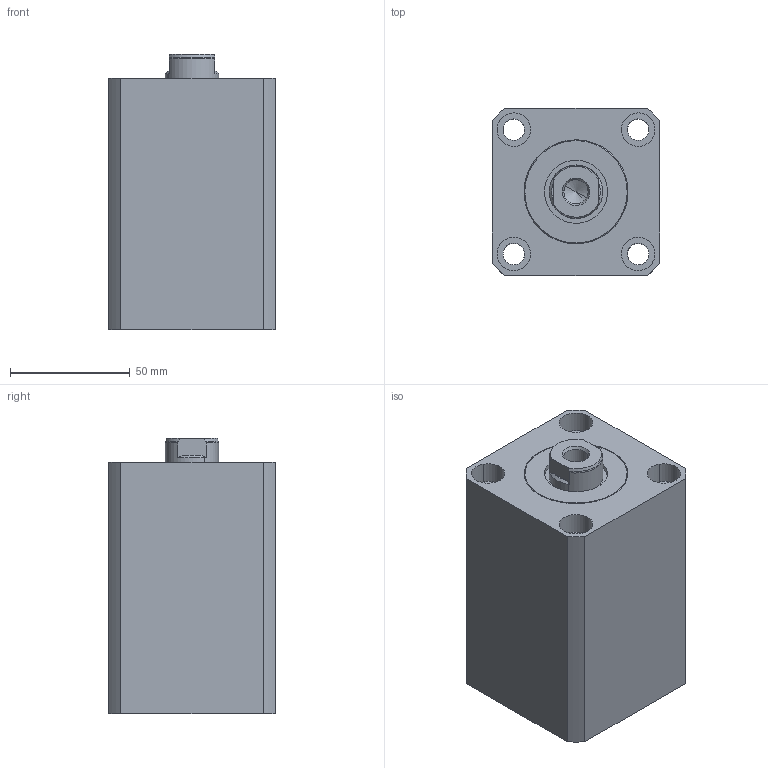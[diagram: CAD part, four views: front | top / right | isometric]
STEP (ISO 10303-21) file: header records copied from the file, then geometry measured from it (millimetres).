
FILE_DESCRIPTION(('CATIA V5 STEP'),'2;1');
FILE_NAME('\\Kjf-102\kjf_tc\Hydraulic_Clamp\Standard\BLOCK_CLAMP\BDx-40xx\G-TYPE\BDV-4050G_-.stp','2018-12-10T02:12:46+00:00',('none'),('none'),'CATIA Version 5 Release 19 SP 6 (IN-10)','CATIA V5 STEP AP214','none');
FILE_SCHEMA(('AUTOMOTIVE_DESIGN { 1 0 10303 214 1 1 1 1 }'));
Length unit declared in the file: millimetre
Products named in the file (3): BDV-4050G_-; BDV-4050G_-_HOUSING; BDx-4050_-_PISTON
Assembly tree (2 placements, depth 2):
  BDV-4050G_-
    BDV-4050G_-_HOUSING
    BDx-4050_-_PISTON
Bounding box: 70 x 70 x 115 mm (x, y, z)
Volume: 410324 mm3; surface area: 70251.6 mm2
Topology: 2 solids, 2 shells, 92 faces, 222 edges, 146 vertices
Faces by surface type: cylinder 48, plane 26, cone 16, torus 2
Entity records: 2554 total; most frequent: CARTESIAN_POINT 501, ORIENTED_EDGE 432, DIRECTION 310, EDGE_CURVE 216, AXIS2_PLACEMENT_3D 175, VERTEX_POINT 145, CIRCLE 120, EDGE_LOOP 117
